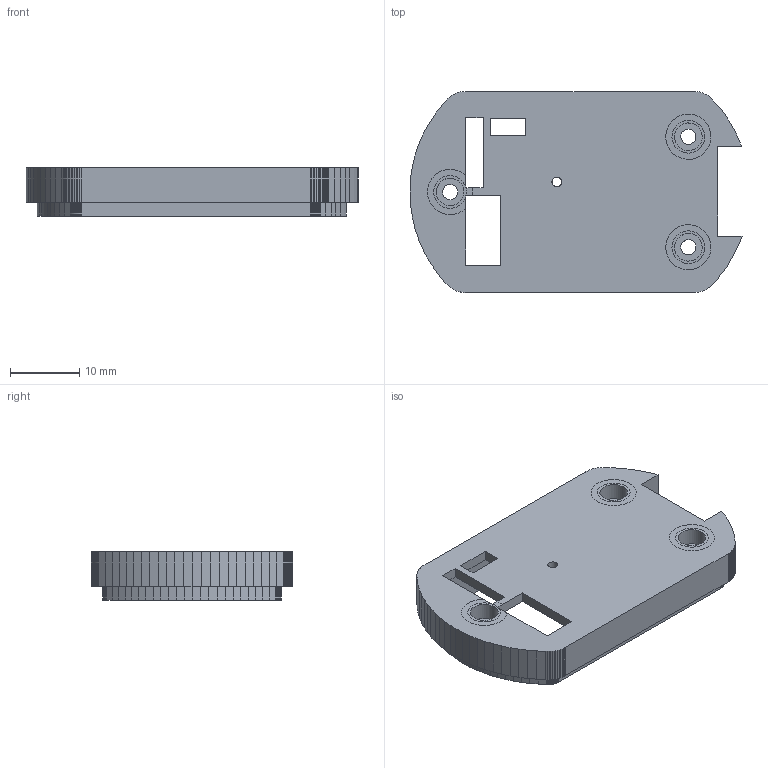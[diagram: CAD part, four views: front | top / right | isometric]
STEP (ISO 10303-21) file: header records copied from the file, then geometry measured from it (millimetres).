
FILE_DESCRIPTION(('Designed by EasyEDA Pro'),'2;1');
FILE_NAME('Open CASCADE Shape Model','2023-11-28T11:44:40',('Author'),( 'Open CASCADE'),'Open CASCADE STEP processor 7.6','Open CASCADE 7.6' ,'Unknown');
FILE_SCHEMA(('AUTOMOTIVE_DESIGN { 1 0 10303 214 1 1 1 1 }'));
Length unit declared in the file: millimetre
Products named in the file (1): Open CASCADE STEP translator 7.6 1
Bounding box: 48.08 x 29.11 x 7 mm (x, y, z)
Volume: 3469.9 mm3; surface area: 4208.4 mm2
Topology: 1 solids, 1 shells, 353 faces, 1042 edges, 697 vertices
Faces by surface type: bspline 353
Entity records: 23931 total; most frequent: CARTESIAN_POINT 10426, B_SPLINE_CURVE_WITH_KNOTS 3023, ORIENTED_EDGE 2084, PCURVE 2084, DEFINITIONAL_REPRESENTATION 2084, EDGE_CURVE 1042, SURFACE_CURVE 1033, VERTEX_POINT 697
